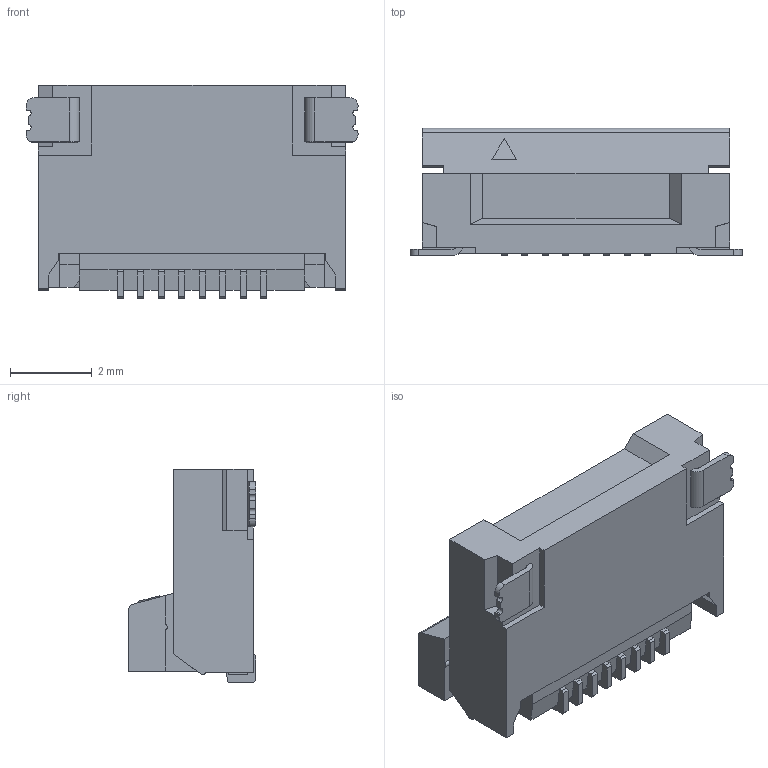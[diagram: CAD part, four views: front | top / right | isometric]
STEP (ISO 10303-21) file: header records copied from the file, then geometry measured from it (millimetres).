
FILE_DESCRIPTION (( 'STEP AP203' ), '1' );
FILE_NAME ('20593-008E-01C ASS''Y ACT OPEN STEP R1 ALL.STEP', '2017-05-16T08:15:56', ( '' ), ( '' ), 'SwSTEP 2.0', 'SolidWorks 2014', '' );
FILE_SCHEMA (( 'CONFIG_CONTROL_DESIGN' ));
Length unit declared in the file: millimetre
Products named in the file (1): 20593-008E-01C ASS''Y ACT OPEN STEP R1 ALL
Bounding box: 8.1 x 3.1 x 5.2 mm (x, y, z)
Volume: 74.2 mm3; surface area: 167.1 mm2
Topology: 1 solids, 1 shells, 217 faces, 614 edges, 402 vertices
Faces by surface type: plane 187, cylinder 26, cone 4
Entity records: 6989 total; most frequent: CARTESIAN_POINT 1258, ORIENTED_EDGE 1228, DIRECTION 1098, EDGE_CURVE 614, LINE 550, VECTOR 550, VERTEX_POINT 402, AXIS2_PLACEMENT_3D 274
